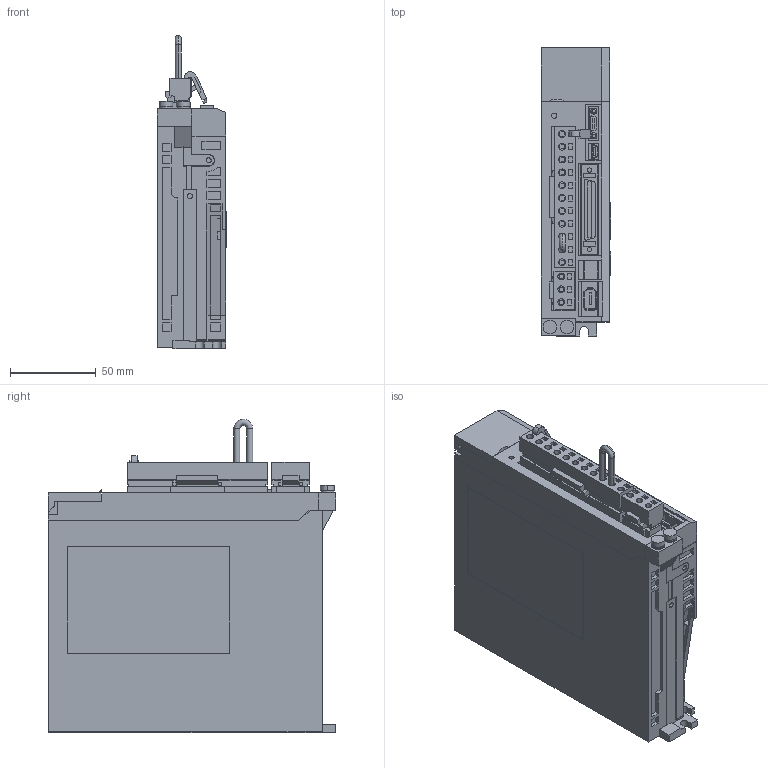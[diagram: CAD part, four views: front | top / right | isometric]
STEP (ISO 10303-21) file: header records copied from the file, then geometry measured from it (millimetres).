
FILE_DESCRIPTION (( 'STEP AP203' ), '1' );
FILE_NAME ('sgd7s_1r6a00a.STEP', '2015-08-31T23:58:19', ( '匠エンジニアリング山之内' ), ( 'TAKUMI-Engniaring' ), 'SwSTEP 2.0', 'SolidWorks 2006303', '' );
FILE_SCHEMA (( 'CONFIG_CONTROL_DESIGN' ));
Length unit declared in the file: millimetre
Products named in the file (10): sgd7s_1r6a00a_connector_3; sgd7s_1r6a00a_pin; sgd7s_1r6a00a; sgd7s_1r6a00a_base; sgd7s_1r6a00a_connector; sgd7s_1r6a00a_connector_2; sgd7s_1r6a00a_cable; sgd7s_1r6a00a_connector_1; sgd7s_1r6a00a_cover; sgd7s_1r6a00a_cover2
Assembly tree (10 placements, depth 3):
  sgd7s_1r6a00a
    sgd7s_1r6a00a_cover2  x2
    sgd7s_1r6a00a_connector_1
    sgd7s_1r6a00a_connector
      sgd7s_1r6a00a_connector_2
      sgd7s_1r6a00a_cable
      sgd7s_1r6a00a_pin
    sgd7s_1r6a00a_connector_3
    sgd7s_1r6a00a_cover
    sgd7s_1r6a00a_base
Bounding box: 40.5 x 168 x 183 mm (x, y, z)
Volume: 827617.8 mm3; surface area: 132059.8 mm2
Topology: 9 solids, 9 shells, 1655 faces, 4338 edges, 2861 vertices
Faces by surface type: plane 1442, cylinder 206, cone 4, torus 2, sphere 1
Entity records: 50638 total; most frequent: CARTESIAN_POINT 8757, ORIENTED_EDGE 8568, DIRECTION 8006, EDGE_CURVE 4284, VECTOR 3858, LINE 3858, VERTEX_POINT 2825, AXIS2_PLACEMENT_3D 2074
